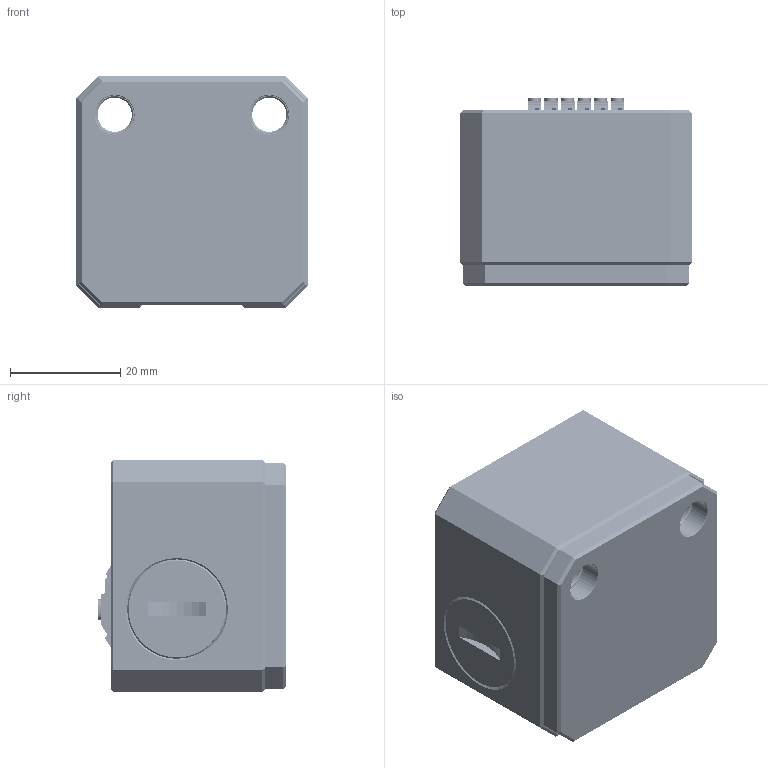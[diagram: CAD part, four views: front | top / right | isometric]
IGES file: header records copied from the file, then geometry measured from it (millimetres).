
Start section: START RECORD GO HERE.
Global section: file name: UM064242.igs; native system: DASSAULT SYSTEMES CATIA V5 R20 - www.3ds.com; preprocessor: CATIA Version 5 Release 20 ; author: Utente; organization: NB04-ASUS; date: 20201208.144345; units: millimetre
Bounding box: 42 x 34.1 x 42 mm (x, y, z)
Surface area: 25973.5 mm2 (no closed solid volume)
Topology: 0 solids, 0 shells, 2443 faces, 12324 edges, 12242 vertices
Faces by surface type: bspline 1026, plane 745, revolution 672
